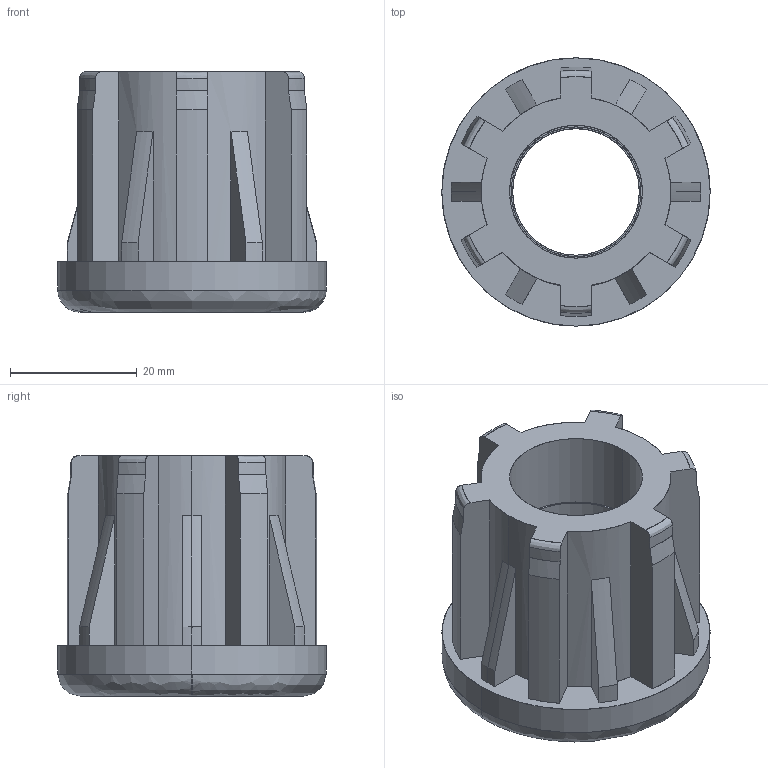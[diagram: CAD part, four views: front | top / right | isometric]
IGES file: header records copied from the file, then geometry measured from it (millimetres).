
Start section: SolidWorks IGES file using analytic representation for surfaces
Global section: file name: Y:\Tecnodin, S.L\PLAPP-Dirección - Documentos\General\Models CAD\Actiby\42006442220.IGS; native system: SolidWorks 2018; preprocessor: SolidWorks 2018; author: GerPro; date: 200225.181504; units: millimetre
Bounding box: 42.4 x 42.4 x 38 mm (x, y, z)
Surface area: 13817.5 mm2 (no closed solid volume)
Topology: 0 solids, 0 shells, 112 faces, 1200 edges, 1200 vertices
Faces by surface type: revolution 66, bspline 46
